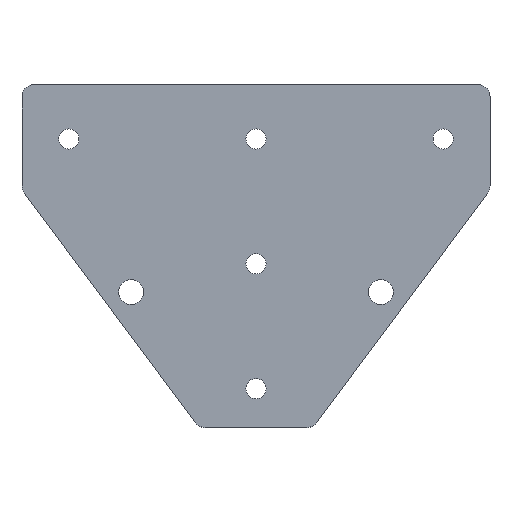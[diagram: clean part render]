
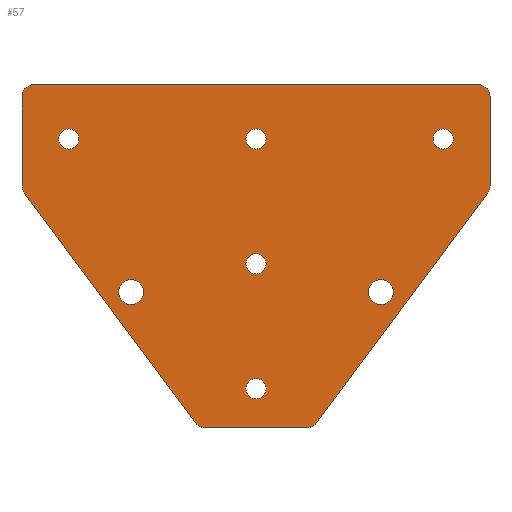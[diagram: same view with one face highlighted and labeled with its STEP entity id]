
A CAD part, top view. The second image highlights one B-rep face of the part: STEP entity #57.
In plain terms, the highlighted planar face has unit normal (0, 0, 1).
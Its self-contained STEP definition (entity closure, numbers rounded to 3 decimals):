
#57=ADVANCED_FACE('',(#258,#260,#262,#264,#266,#268,#270,#272),#274,.T.);
#258=FACE_BOUND('',#259,.T.);
#259=EDGE_LOOP('',(#445,#446,#447,#448,#449,#450,#451,#452,#453,#454,#455,#456));
#260=FACE_BOUND('',#261,.T.);
#261=EDGE_LOOP('',(#457));
#262=FACE_BOUND('',#263,.T.);
#263=EDGE_LOOP('',(#458));
#264=FACE_BOUND('',#265,.T.);
#265=EDGE_LOOP('',(#459));
#266=FACE_BOUND('',#267,.T.);
#267=EDGE_LOOP('',(#460));
#268=FACE_BOUND('',#269,.T.);
#269=EDGE_LOOP('',(#461));
#270=FACE_BOUND('',#271,.T.);
#271=EDGE_LOOP('',(#462));
#272=FACE_BOUND('',#273,.T.);
#273=EDGE_LOOP('',(#463));
#274=PLANE('',#275);
#275=AXIS2_PLACEMENT_3D('',#276,#277,#278);
#276=CARTESIAN_POINT('',(0.,0.,3.));
#277=DIRECTION('',(0.,0.,1.));
#278=DIRECTION('',(-1.,0.,0.));
#445=ORIENTED_EDGE('',*,*,#545,.T.);
#446=ORIENTED_EDGE('',*,*,#546,.T.);
#447=ORIENTED_EDGE('',*,*,#547,.T.);
#448=ORIENTED_EDGE('',*,*,#548,.T.);
#449=ORIENTED_EDGE('',*,*,#549,.T.);
#450=ORIENTED_EDGE('',*,*,#550,.T.);
#451=ORIENTED_EDGE('',*,*,#551,.T.);
#452=ORIENTED_EDGE('',*,*,#552,.T.);
#453=ORIENTED_EDGE('',*,*,#553,.T.);
#454=ORIENTED_EDGE('',*,*,#554,.T.);
#455=ORIENTED_EDGE('',*,*,#555,.T.);
#456=ORIENTED_EDGE('',*,*,#556,.T.);
#457=ORIENTED_EDGE('',*,*,#557,.T.);
#458=ORIENTED_EDGE('',*,*,#558,.T.);
#459=ORIENTED_EDGE('',*,*,#559,.T.);
#460=ORIENTED_EDGE('',*,*,#560,.T.);
#461=ORIENTED_EDGE('',*,*,#561,.T.);
#462=ORIENTED_EDGE('',*,*,#562,.T.);
#463=ORIENTED_EDGE('',*,*,#563,.T.);
#545=EDGE_CURVE('',#614,#615,#616,.T.);
#546=EDGE_CURVE('',#615,#617,#618,.T.);
#547=EDGE_CURVE('',#617,#619,#620,.T.);
#548=EDGE_CURVE('',#619,#621,#622,.T.);
#549=EDGE_CURVE('',#621,#623,#624,.T.);
#550=EDGE_CURVE('',#623,#625,#626,.T.);
#551=EDGE_CURVE('',#625,#627,#628,.T.);
#552=EDGE_CURVE('',#627,#629,#630,.T.);
#553=EDGE_CURVE('',#629,#631,#632,.T.);
#554=EDGE_CURVE('',#631,#633,#634,.T.);
#555=EDGE_CURVE('',#633,#635,#636,.T.);
#556=EDGE_CURVE('',#635,#614,#637,.T.);
#557=EDGE_CURVE('',#638,#638,#639,.F.);
#558=EDGE_CURVE('',#640,#640,#641,.F.);
#559=EDGE_CURVE('',#642,#642,#643,.F.);
#560=EDGE_CURVE('',#644,#644,#645,.F.);
#561=EDGE_CURVE('',#646,#646,#647,.F.);
#562=EDGE_CURVE('',#648,#648,#649,.F.);
#563=EDGE_CURVE('',#650,#650,#651,.F.);
#614=VERTEX_POINT('',#753);
#615=VERTEX_POINT('',#754);
#616=LINE('',#755,#756);
#617=VERTEX_POINT('',#758);
#618=CIRCLE('',#759,4.);
#619=VERTEX_POINT('',#763);
#620=LINE('',#764,#765);
#621=VERTEX_POINT('',#767);
#622=CIRCLE('',#768,4.);
#623=VERTEX_POINT('',#772);
#624=LINE('',#773,#774);
#625=VERTEX_POINT('',#776);
#626=CIRCLE('',#777,4.);
#627=VERTEX_POINT('',#781);
#628=LINE('',#782,#783);
#629=VERTEX_POINT('',#785);
#630=CIRCLE('',#786,4.);
#631=VERTEX_POINT('',#790);
#632=LINE('',#791,#792);
#633=VERTEX_POINT('',#794);
#634=CIRCLE('',#795,4.);
#635=VERTEX_POINT('',#799);
#636=LINE('',#800,#801);
#637=CIRCLE('',#803,4.);
#638=VERTEX_POINT('',#807);
#639=CIRCLE('',#808,4.);
#640=VERTEX_POINT('',#812);
#641=CIRCLE('',#813,4.);
#642=VERTEX_POINT('',#817);
#643=CIRCLE('',#818,3.25);
#644=VERTEX_POINT('',#822);
#645=CIRCLE('',#823,3.25);
#646=VERTEX_POINT('',#827);
#647=CIRCLE('',#828,3.25);
#648=VERTEX_POINT('',#832);
#649=CIRCLE('',#833,3.25);
#650=VERTEX_POINT('',#837);
#651=CIRCLE('',#838,3.25);
#753=CARTESIAN_POINT('',(-75.,-4.,3.));
#754=CARTESIAN_POINT('',(-75.,-32.51,3.));
#755=CARTESIAN_POINT('',(-75.,-4.,3.));
#756=VECTOR('',#757,1.);
#757=DIRECTION('',(0.,-1.,0.));
#758=CARTESIAN_POINT('',(-74.208,-34.9,3.));
#759=AXIS2_PLACEMENT_3D('',#760,#761,#762);
#760=CARTESIAN_POINT('',(-71.,-32.51,3.));
#761=DIRECTION('',(0.,0.,1.));
#762=DIRECTION('',(-1.,0.,0.));
#763=CARTESIAN_POINT('',(-19.45,-108.39,3.));
#764=CARTESIAN_POINT('',(-74.208,-34.9,3.));
#765=VECTOR('',#766,1.);
#766=DIRECTION('',(0.597,-0.802,0.));
#767=CARTESIAN_POINT('',(-16.242,-110.,3.));
#768=AXIS2_PLACEMENT_3D('',#769,#770,#771);
#769=CARTESIAN_POINT('',(-16.242,-106.,3.));
#770=DIRECTION('',(0.,0.,1.));
#771=DIRECTION('',(-0.802,-0.597,0.));
#772=CARTESIAN_POINT('',(16.242,-110.,3.));
#773=CARTESIAN_POINT('',(-16.242,-110.,3.));
#774=VECTOR('',#775,1.);
#775=DIRECTION('',(1.,0.,0.));
#776=CARTESIAN_POINT('',(19.45,-108.39,3.));
#777=AXIS2_PLACEMENT_3D('',#778,#779,#780);
#778=CARTESIAN_POINT('',(16.242,-106.,3.));
#779=DIRECTION('',(0.,0.,1.));
#780=DIRECTION('',(0.,-1.,0.));
#781=CARTESIAN_POINT('',(74.208,-34.9,3.));
#782=CARTESIAN_POINT('',(19.45,-108.39,3.));
#783=VECTOR('',#784,1.);
#784=DIRECTION('',(0.597,0.802,0.));
#785=CARTESIAN_POINT('',(75.,-32.51,3.));
#786=AXIS2_PLACEMENT_3D('',#787,#788,#789);
#787=CARTESIAN_POINT('',(71.,-32.51,3.));
#788=DIRECTION('',(0.,0.,1.));
#789=DIRECTION('',(0.802,-0.597,0.));
#790=CARTESIAN_POINT('',(75.,-4.,3.));
#791=CARTESIAN_POINT('',(75.,-32.51,3.));
#792=VECTOR('',#793,1.);
#793=DIRECTION('',(0.,1.,0.));
#794=CARTESIAN_POINT('',(71.,0.,3.));
#795=AXIS2_PLACEMENT_3D('',#796,#797,#798);
#796=CARTESIAN_POINT('',(71.,-4.,3.));
#797=DIRECTION('',(0.,0.,1.));
#798=DIRECTION('',(1.,0.,0.));
#799=CARTESIAN_POINT('',(-71.,0.,3.));
#800=CARTESIAN_POINT('',(71.,0.,3.));
#801=VECTOR('',#802,1.);
#802=DIRECTION('',(-1.,0.,0.));
#803=AXIS2_PLACEMENT_3D('',#804,#805,#806);
#804=CARTESIAN_POINT('',(-71.,-4.,3.));
#805=DIRECTION('',(0.,0.,1.));
#806=DIRECTION('',(0.,1.,0.));
#807=CARTESIAN_POINT('',(40.013,-70.566,3.));
#808=AXIS2_PLACEMENT_3D('',#809,#810,#811);
#809=CARTESIAN_POINT('',(40.013,-66.566,3.));
#810=DIRECTION('',(0.,0.,1.));
#811=DIRECTION('',(0.,-1.,0.));
#812=CARTESIAN_POINT('',(-40.013,-70.566,3.));
#813=AXIS2_PLACEMENT_3D('',#814,#815,#816);
#814=CARTESIAN_POINT('',(-40.013,-66.566,3.));
#815=DIRECTION('',(0.,0.,1.));
#816=DIRECTION('',(0.,-1.,0.));
#817=CARTESIAN_POINT('',(3.25,-17.5,3.));
#818=AXIS2_PLACEMENT_3D('',#819,#820,#821);
#819=CARTESIAN_POINT('',(0.,-17.5,3.));
#820=DIRECTION('',(0.,0.,1.));
#821=DIRECTION('',(1.,0.,0.));
#822=CARTESIAN_POINT('',(-56.75,-17.5,3.));
#823=AXIS2_PLACEMENT_3D('',#824,#825,#826);
#824=CARTESIAN_POINT('',(-60.,-17.5,3.));
#825=DIRECTION('',(0.,0.,1.));
#826=DIRECTION('',(1.,0.,0.));
#827=CARTESIAN_POINT('',(3.25,-97.5,3.));
#828=AXIS2_PLACEMENT_3D('',#829,#830,#831);
#829=CARTESIAN_POINT('',(0.,-97.5,3.));
#830=DIRECTION('',(0.,0.,1.));
#831=DIRECTION('',(1.,0.,0.));
#832=CARTESIAN_POINT('',(3.25,-57.5,3.));
#833=AXIS2_PLACEMENT_3D('',#834,#835,#836);
#834=CARTESIAN_POINT('',(0.,-57.5,3.));
#835=DIRECTION('',(0.,0.,1.));
#836=DIRECTION('',(1.,0.,0.));
#837=CARTESIAN_POINT('',(63.25,-17.5,3.));
#838=AXIS2_PLACEMENT_3D('',#839,#840,#841);
#839=CARTESIAN_POINT('',(60.,-17.5,3.));
#840=DIRECTION('',(0.,0.,1.));
#841=DIRECTION('',(1.,0.,0.));
